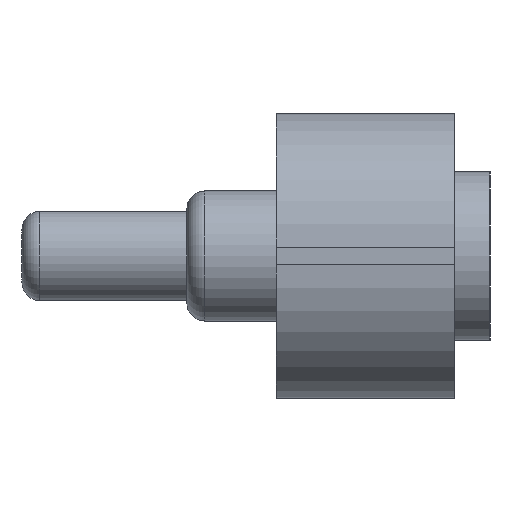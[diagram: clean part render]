
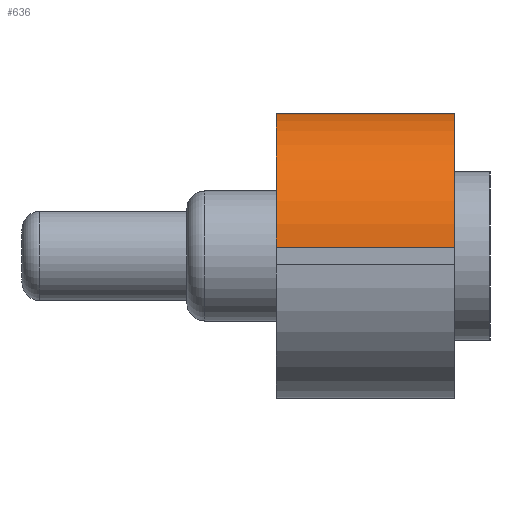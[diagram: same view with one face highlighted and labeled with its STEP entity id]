
A CAD part, left-side view. The second image highlights one B-rep face of the part: STEP entity #636.
In plain terms, the highlighted cylindrical face has radius 1.5 mm (diameter 3 mm), a partial arc.
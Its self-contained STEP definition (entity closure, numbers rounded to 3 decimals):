
#28=CARTESIAN_POINT('',(-13.5,-85.45,-4.35));
#29=DIRECTION('',(0.,1.,0.));
#30=DIRECTION('',(-1.,0.,0.));
#31=AXIS2_PLACEMENT_3D('',#28,#29,#30);
#142=CARTESIAN_POINT('',(-13.5,-83.45,-4.35));
#143=DIRECTION('',(0.,-1.,0.));
#144=DIRECTION('',(0.,0.,1.));
#145=AXIS2_PLACEMENT_3D('',#142,#143,#144);
#257=DIRECTION('',(0.,1.,0.));
#258=VECTOR('',#257,2.);
#259=CARTESIAN_POINT('',(-15.,-85.45,-4.35));
#260=LINE('',#259,#258);
#261=DIRECTION('',(0.,-1.,0.));
#262=VECTOR('',#261,2.);
#263=CARTESIAN_POINT('',(-13.5,-83.45,-2.85));
#264=LINE('',#263,#262);
#357=CARTESIAN_POINT('',(-15.,-85.45,-4.35));
#358=VERTEX_POINT('',#357);
#359=CARTESIAN_POINT('',(-13.5,-85.45,-2.85));
#360=VERTEX_POINT('',#359);
#401=CARTESIAN_POINT('',(-13.5,-83.45,-2.85));
#402=VERTEX_POINT('',#401);
#403=CARTESIAN_POINT('',(-15.,-83.45,-4.35));
#404=VERTEX_POINT('',#403);
#624=CARTESIAN_POINT('',(-13.5,-83.41,-4.35));
#625=DIRECTION('',(0.,-1.,0.));
#626=DIRECTION('',(0.,0.,1.));
#627=AXIS2_PLACEMENT_3D('',#624,#625,#626);
#628=CYLINDRICAL_SURFACE('',#627,1.5);
#629=ORIENTED_EDGE('',*,*,#466,.F.);
#631=ORIENTED_EDGE('',*,*,#630,.T.);
#632=ORIENTED_EDGE('',*,*,#546,.F.);
#633=ORIENTED_EDGE('',*,*,#618,.T.);
#634=EDGE_LOOP('',(#629,#631,#632,#633));
#635=FACE_OUTER_BOUND('',#634,.F.);
#636=ADVANCED_FACE('',(#635),#628,.T.);
#32=CIRCLE('',#31,1.5);
#146=CIRCLE('',#145,1.5);
#466=EDGE_CURVE('',#358,#360,#32,.T.);
#546=EDGE_CURVE('',#402,#404,#146,.T.);
#618=EDGE_CURVE('',#402,#360,#264,.T.);
#630=EDGE_CURVE('',#358,#404,#260,.T.);
